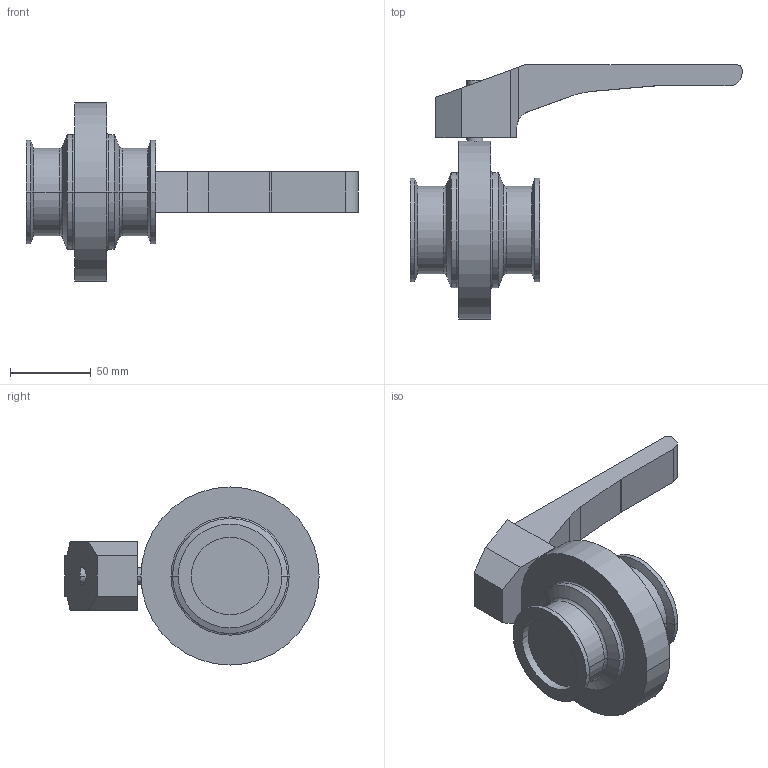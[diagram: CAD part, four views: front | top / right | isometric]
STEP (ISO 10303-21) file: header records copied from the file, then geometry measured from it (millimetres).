
FILE_DESCRIPTION(('OneSpaceDesigner STEP Export'),'2;1');
FILE_NAME('SV1-2zoll-H-12CL-vereint.stp','2007-04-20T11:27:19',(''),(''),'OneSpace Designer STEP processor for AP214 (Solid Model)','OneSpace Modeling 15.00 06-Feb-2007 (C) CoCreate Software GmbH','');
FILE_SCHEMA(('AUTOMOTIVE_DESIGN { 1 0 10303 214 1 1 1 1 }'));
Length unit declared in the file: millimetre
Products named in the file (3): Handhebel-SV-40-100; SV1-2zoll-H-12CL; SV1-2zoll-H-12CL-vereint
Assembly tree (2 placements, depth 2):
  SV1-2zoll-H-12CL-vereint
    SV1-2zoll-H-12CL
    Handhebel-SV-40-100
Bounding box: 205 x 157 x 110 mm (x, y, z)
Volume: 464512.3 mm3; surface area: 61396.6 mm2
Topology: 2 solids, 2 shells, 68 faces, 151 edges, 92 vertices
Faces by surface type: cylinder 27, plane 25, torus 8, cone 8
Entity records: 2127 total; most frequent: CARTESIAN_POINT 671, ORIENTED_EDGE 302, DIRECTION 271, EDGE_CURVE 151, AXIS2_PLACEMENT_3D 97, VERTEX_POINT 92, VECTOR 77, LINE 77
